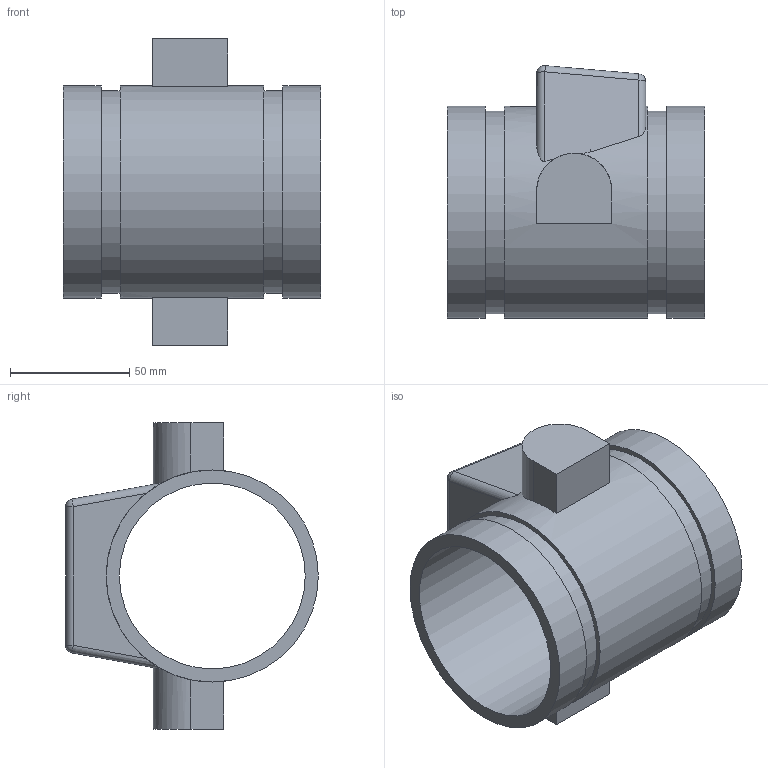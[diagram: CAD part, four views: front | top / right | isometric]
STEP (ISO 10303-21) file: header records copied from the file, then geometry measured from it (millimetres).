
FILE_DESCRIPTION(/* description */ ('VIC FIRELOCK CHECK VALVE SERIES 717','CAx-IF Rec.Pracs.---Representation and Presentation of Product Manufacturing Information (PMI)---4.0---2014-10-13'),/* implementation_level */ '2;1');
FILE_NAME(/* name */ 'C:\Users\Vjadhav\AppData\Roaming\Autodesk\ApplicationPlugins\Back Up\Victaulic_FP-FireLock_Valve Check_Series 717 (OGS)\Victaulic_FP-FireLock_Valve Check_3 (80).stp',/* time_stamp */ '2020-07-17T15:00:33+06:00',/* author */ ('kkamble'),/* organization */ ('Victaulic'),/* preprocessor_version */ 'ST-DEVELOPER v17.2',/* originating_system */ 'Autodesk Inventor 2019',/* authorisation */ '');
FILE_SCHEMA (('AP242_MANAGED_MODEL_BASED_3D_ENGINEERING_MIM_LF { 1 0 10303 442 1 1 4 }'));
Length unit declared in the file: inch
Products named in the file (2): 717-03.0; 717 - 03.0
Assembly tree (1 placements, depth 2):
  717-03.0
    717 - 03.0
Bounding box: 107.95 x 105.92 x 128.52 mm (x, y, z)
Volume: 239970.4 mm3; surface area: 73911 mm2
Topology: 1 solids, 1 shells, 40 faces, 99 edges, 66 vertices
Faces by surface type: plane 19, cylinder 16, sphere 4, cone 1
Full cylindrical faces by diameter (mm): 77.927 x1, 84.938 x2, 88.9 x3
Entity records: 1416 total; most frequent: CARTESIAN_POINT 311, DIRECTION 228, ORIENTED_EDGE 198, EDGE_CURVE 99, AXIS2_PLACEMENT_3D 95, VERTEX_POINT 66, EDGE_LOOP 47, CIRCLE 45
